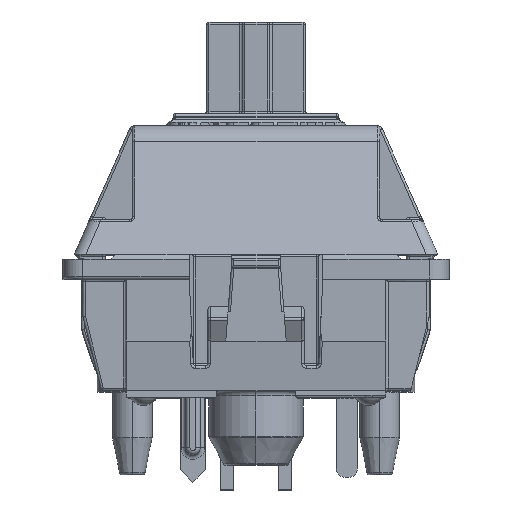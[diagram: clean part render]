
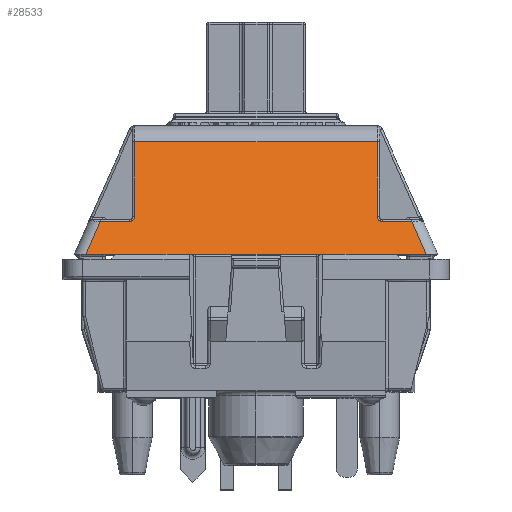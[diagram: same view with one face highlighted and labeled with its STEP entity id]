
A CAD part, top view. The second image highlights one B-rep face of the part: STEP entity #28533.
In plain terms, the highlighted planar face has unit normal (0, 0.359, 0.933).
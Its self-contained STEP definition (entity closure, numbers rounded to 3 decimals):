
#414 = EDGE_CURVE ( 'NONE', #68974, #7480, #28581, .T. ) ;
#1707 = DIRECTION ( 'NONE',  ( -0.382, -0.863, 0.332 ) ) ;
#2158 = CARTESIAN_POINT ( 'NONE',  ( 0., 5.2, -2. ) ) ;
#3847 = ORIENTED_EDGE ( 'NONE', *, *, #13079, .T. ) ;
#4664 = EDGE_CURVE ( 'NONE', #41950, #22569, #44771, .T. ) ;
#4769 = EDGE_CURVE ( 'NONE', #41950, #7480, #56646, .T. ) ;
#5491 = VECTOR ( 'NONE', #30373, 1000. ) ;
#5827 = CARTESIAN_POINT ( 'NONE',  ( 14.233, 0., 0. ) ) ;
#6215 = CARTESIAN_POINT ( 'NONE',  ( 12.45, 1.336, -0.514 ) ) ;
#6242 = VERTEX_POINT ( 'NONE', #43152 ) ;
#7480 = VERTEX_POINT ( 'NONE', #6215 ) ;
#8750 = CARTESIAN_POINT ( 'NONE',  ( 12.25, 4.559, -1.753 ) ) ;
#8804 = VERTEX_POINT ( 'NONE', #23695 ) ;
#9175 = ORIENTED_EDGE ( 'NONE', *, *, #37578, .T. ) ;
#10199 = CARTESIAN_POINT ( 'NONE',  ( 2.45, 4.559, -1.753 ) ) ;
#11414 = VERTEX_POINT ( 'NONE', #10199 ) ;
#12830 = CARTESIAN_POINT ( 'NONE',  ( 2.45, 1.419, -0.546 ) ) ;
#13079 = EDGE_CURVE ( 'NONE', #13465, #68974, #32031, .T. ) ;
#13465 = VERTEX_POINT ( 'NONE', #5827 ) ;
#13485 = CARTESIAN_POINT ( 'NONE',  ( 2.35, 4.559, -1.753 ) ) ;
#13584 = VECTOR ( 'NONE', #14437, 1000. ) ;
#13826 = ORIENTED_EDGE ( 'NONE', *, *, #4664, .T. ) ;
#14437 = DIRECTION ( 'NONE',  ( 1., 0., 0. ) ) ;
#17542 = CARTESIAN_POINT ( 'NONE',  ( 2.45, 1.536, -0.591 ) ) ;
#19449 = DIRECTION ( 'NONE',  ( 1., 0., 0. ) ) ;
#19523 = FACE_OUTER_BOUND ( 'NONE', #67079, .T. ) ;
#22569 = VERTEX_POINT ( 'NONE', #34610 ) ;
#23695 = CARTESIAN_POINT ( 'NONE',  ( 2.45, 1.536, -0.591 ) ) ;
#24175 = PLANE ( 'NONE',  #24268 ) ;
#24268 = AXIS2_PLACEMENT_3D ( 'NONE', #2158, #58477, #19449 ) ;
#24377 = DIRECTION ( 'NONE',  ( -1., 0., 0. ) ) ;
#24935 = DIRECTION ( 'NONE',  ( -1., 0., 0. ) ) ;
#25692 = LINE ( 'NONE', #13485, #64814 ) ;
#27498 = CARTESIAN_POINT ( 'NONE',  ( 12.25, 1.536, -0.591 ) ) ;
#28514 = CARTESIAN_POINT ( 'NONE',  ( 1.058, 1.336, -0.514 ) ) ;
#28533 = ADVANCED_FACE ( 'NONE', ( #19523 ), #24175, .F. ) ;
#28581 = LINE ( 'NONE', #53723, #48168 ) ;
#30086 =( BOUNDED_CURVE ( )  B_SPLINE_CURVE ( 3, ( #40126, #35122, #12830, #17542 ),
 .UNSPECIFIED., .F., .F. ) 
 B_SPLINE_CURVE_WITH_KNOTS ( ( 4, 4 ),
 ( 3.142, 4.712 ),
 .UNSPECIFIED. ) 
 CURVE ( )  GEOMETRIC_REPRESENTATION_ITEM ( )  RATIONAL_B_SPLINE_CURVE ( ( 1., 0.805, 0.805, 1. ) ) 
 REPRESENTATION_ITEM ( '' )  );
#30373 = DIRECTION ( 'NONE',  ( -0.382, 0.863, -0.332 ) ) ;
#31769 = ORIENTED_EDGE ( 'NONE', *, *, #35112, .T. ) ;
#32031 = LINE ( 'NONE', #53217, #5491 ) ;
#32984 = CARTESIAN_POINT ( 'NONE',  ( 12.25, 1.419, -0.546 ) ) ;
#33172 = DIRECTION ( 'NONE',  ( -1., 0., 0. ) ) ;
#34610 = CARTESIAN_POINT ( 'NONE',  ( 12.25, 4.559, -1.753 ) ) ;
#34628 = CARTESIAN_POINT ( 'NONE',  ( 12.25, 1.536, -0.591 ) ) ;
#35112 = EDGE_CURVE ( 'NONE', #22569, #11414, #25692, .T. ) ;
#35122 = CARTESIAN_POINT ( 'NONE',  ( 2.367, 1.336, -0.514 ) ) ;
#35789 = CARTESIAN_POINT ( 'NONE',  ( 2.45, 1.4, -0.538 ) ) ;
#37475 = EDGE_CURVE ( 'NONE', #51939, #8804, #30086, .T. ) ;
#37578 = EDGE_CURVE ( 'NONE', #65815, #6242, #53324, .T. ) ;
#38105 = CARTESIAN_POINT ( 'NONE',  ( 13.642, 1.336, -0.514 ) ) ;
#38228 = VECTOR ( 'NONE', #1707, 1000. ) ;
#39806 = ORIENTED_EDGE ( 'NONE', *, *, #46313, .T. ) ;
#40126 = CARTESIAN_POINT ( 'NONE',  ( 2.25, 1.336, -0.514 ) ) ;
#40381 = VECTOR ( 'NONE', #54359, 1000. ) ;
#41950 = VERTEX_POINT ( 'NONE', #34628 ) ;
#42546 = VECTOR ( 'NONE', #52184, 1000. ) ;
#43152 = CARTESIAN_POINT ( 'NONE',  ( 0.467, 0., 0. ) ) ;
#44590 = VECTOR ( 'NONE', #33172, 1000. ) ;
#44771 = LINE ( 'NONE', #8750, #40381 ) ;
#44838 = CARTESIAN_POINT ( 'NONE',  ( 0., 1.336, -0.514 ) ) ;
#46313 = EDGE_CURVE ( 'NONE', #6242, #13465, #53503, .T. ) ;
#47177 = EDGE_CURVE ( 'NONE', #11414, #8804, #55877, .T. ) ;
#48164 = CARTESIAN_POINT ( 'NONE',  ( 0., 0., 0. ) ) ;
#48168 = VECTOR ( 'NONE', #24935, 1000. ) ;
#49624 = ORIENTED_EDGE ( 'NONE', *, *, #4769, .F. ) ;
#51939 = VERTEX_POINT ( 'NONE', #69422 ) ;
#52184 = DIRECTION ( 'NONE',  ( 0., -0.933, 0.359 ) ) ;
#53217 = CARTESIAN_POINT ( 'NONE',  ( 10.195, 9.128, -3.511 ) ) ;
#53324 = LINE ( 'NONE', #70092, #38228 ) ;
#53503 = LINE ( 'NONE', #48164, #13584 ) ;
#53723 = CARTESIAN_POINT ( 'NONE',  ( 0., 1.336, -0.514 ) ) ;
#54027 = ORIENTED_EDGE ( 'NONE', *, *, #414, .T. ) ;
#54359 = DIRECTION ( 'NONE',  ( 0., 0.933, -0.359 ) ) ;
#54814 = EDGE_CURVE ( 'NONE', #51939, #65815, #71100, .T. ) ;
#55334 = CARTESIAN_POINT ( 'NONE',  ( 12.45, 1.336, -0.514 ) ) ;
#55877 = LINE ( 'NONE', #35789, #42546 ) ;
#56646 =( BOUNDED_CURVE ( )  B_SPLINE_CURVE ( 3, ( #27498, #32984, #61796, #55334 ),
 .UNSPECIFIED., .F., .F. ) 
 B_SPLINE_CURVE_WITH_KNOTS ( ( 4, 4 ),
 ( 4.712, 6.283 ),
 .UNSPECIFIED. ) 
 CURVE ( )  GEOMETRIC_REPRESENTATION_ITEM ( )  RATIONAL_B_SPLINE_CURVE ( ( 1., 0.805, 0.805, 1. ) ) 
 REPRESENTATION_ITEM ( '' )  );
#57028 = ORIENTED_EDGE ( 'NONE', *, *, #37475, .F. ) ;
#58477 = DIRECTION ( 'NONE',  ( 0., -0.359, -0.933 ) ) ;
#61796 = CARTESIAN_POINT ( 'NONE',  ( 12.333, 1.336, -0.514 ) ) ;
#62914 = ORIENTED_EDGE ( 'NONE', *, *, #47177, .T. ) ;
#64814 = VECTOR ( 'NONE', #24377, 1000. ) ;
#65815 = VERTEX_POINT ( 'NONE', #28514 ) ;
#67079 = EDGE_LOOP ( 'NONE', ( #49624, #13826, #31769, #62914, #57028, #69173, #9175, #39806, #3847, #54027 ) ) ;
#68974 = VERTEX_POINT ( 'NONE', #38105 ) ;
#69173 = ORIENTED_EDGE ( 'NONE', *, *, #54814, .T. ) ;
#69422 = CARTESIAN_POINT ( 'NONE',  ( 2.25, 1.336, -0.514 ) ) ;
#70092 = CARTESIAN_POINT ( 'NONE',  ( 2.364, 4.289, -1.65 ) ) ;
#71100 = LINE ( 'NONE', #44838, #44590 ) ;
